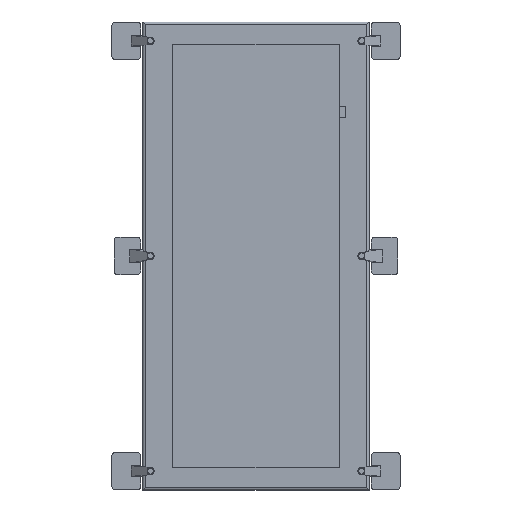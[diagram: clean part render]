
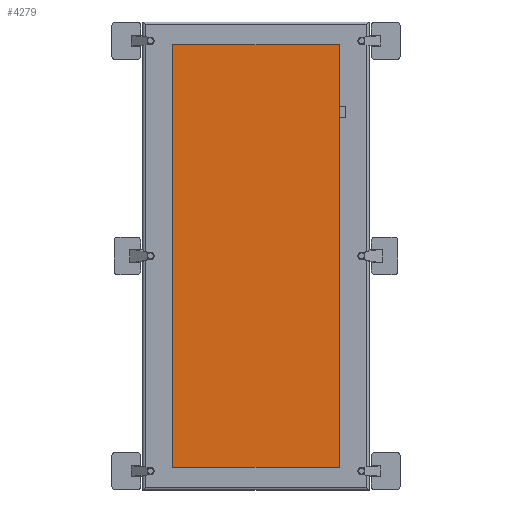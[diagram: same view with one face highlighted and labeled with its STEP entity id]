
A CAD part, top view. The second image highlights one B-rep face of the part: STEP entity #4279.
In plain terms, the highlighted planar face has unit normal (0, 0, 1).
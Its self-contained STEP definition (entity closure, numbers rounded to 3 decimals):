
#387=FACE_OUTER_BOUND('',#646,.T.);
#646=EDGE_LOOP('',(#3225,#3226,#3227,#3228));
#1022=LINE('',#6589,#1484);
#1025=LINE('',#6595,#1487);
#1028=LINE('',#6601,#1490);
#1031=LINE('',#6605,#1493);
#1484=VECTOR('',#5353,10.);
#1487=VECTOR('',#5358,10.);
#1490=VECTOR('',#5363,10.);
#1493=VECTOR('',#5368,10.);
#1882=VERTEX_POINT('',#6586);
#1883=VERTEX_POINT('',#6588);
#1885=VERTEX_POINT('',#6594);
#1887=VERTEX_POINT('',#6600);
#2346=EDGE_CURVE('',#1883,#1882,#1022,.T.);
#2349=EDGE_CURVE('',#1885,#1883,#1025,.T.);
#2352=EDGE_CURVE('',#1887,#1885,#1028,.T.);
#2355=EDGE_CURVE('',#1882,#1887,#1031,.T.);
#3225=ORIENTED_EDGE('',*,*,#2355,.T.);
#3226=ORIENTED_EDGE('',*,*,#2352,.T.);
#3227=ORIENTED_EDGE('',*,*,#2349,.T.);
#3228=ORIENTED_EDGE('',*,*,#2346,.T.);
#3860=PLANE('',#4583);
#4279=ADVANCED_FACE('',(#387),#3860,.T.);
#4583=AXIS2_PLACEMENT_3D('',#6606,#5369,#5370);
#5353=DIRECTION('',(0.,-1.,0.));
#5358=DIRECTION('',(-1.,0.,0.));
#5363=DIRECTION('',(0.,1.,0.));
#5368=DIRECTION('',(1.,0.,0.));
#5369=DIRECTION('center_axis',(0.,0.,1.));
#5370=DIRECTION('ref_axis',(1.,0.,0.));
#6586=CARTESIAN_POINT('',(-110.,-280.,67.));
#6588=CARTESIAN_POINT('',(-110.,280.,67.));
#6589=CARTESIAN_POINT('',(-110.,280.,67.));
#6594=CARTESIAN_POINT('',(110.,280.,67.));
#6595=CARTESIAN_POINT('',(110.,280.,67.));
#6600=CARTESIAN_POINT('',(110.,-280.,67.));
#6601=CARTESIAN_POINT('',(110.,-280.,67.));
#6605=CARTESIAN_POINT('',(-110.,-280.,67.));
#6606=CARTESIAN_POINT('Origin',(0.,0.,67.));
